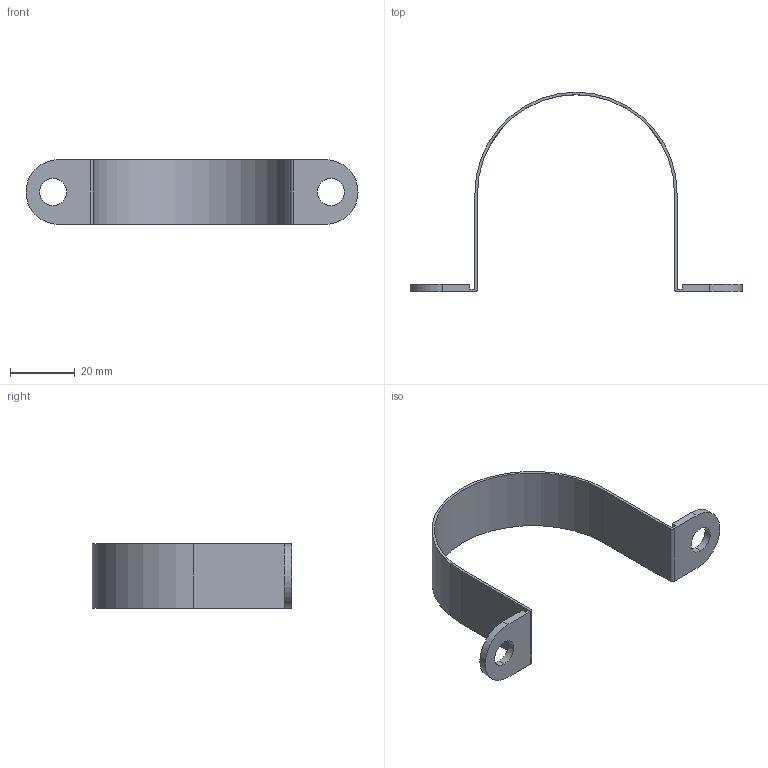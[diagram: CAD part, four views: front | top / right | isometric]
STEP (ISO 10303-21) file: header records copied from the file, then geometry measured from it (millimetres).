
FILE_DESCRIPTION (( 'STEP AP203' ), '1' );
FILE_NAME ('3D-R395_61_173762520.STEP', '2024-08-29T20:33:11', ( '' ), ( '' ), 'SwSTEP 2.0', 'SolidWorks 2024', '' );
FILE_SCHEMA (( 'CONFIG_CONTROL_DESIGN' ));
Length unit declared in the file: millimetre
Products named in the file (1): 3D-R395_61_173762520
Bounding box: 102.8 x 61.8 x 20 mm (x, y, z)
Volume: 3823.2 mm3; surface area: 8181.9 mm2
Topology: 1 solids, 1 shells, 26 faces, 72 edges, 48 vertices
Faces by surface type: plane 14, cylinder 12
Entity records: 925 total; most frequent: DIRECTION 150, CARTESIAN_POINT 147, ORIENTED_EDGE 144, EDGE_CURVE 72, AXIS2_PLACEMENT_3D 51, VERTEX_POINT 48, VECTOR 48, LINE 48
